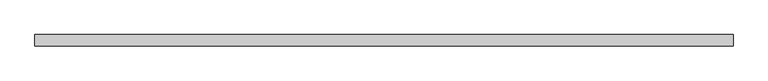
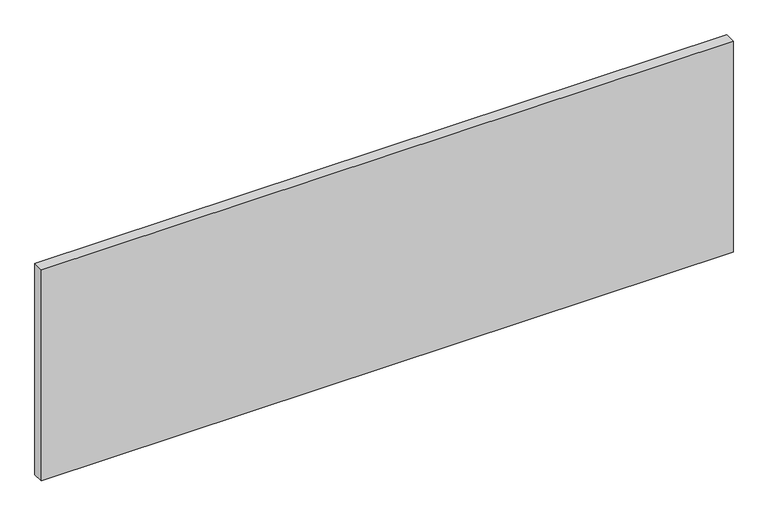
"""IFC4 building model written with IfcOpenShell, lengths in millimetres: proxy geometry, FOUNDATION^WORKSURFACES_FIXED TOP-93x30."""

from ifc_helpers import new_model, si_unit, frame, origin, place, context, project, spatial, polyline, outline, extrude, source, transform, mapped, element, save


def generic_models_fbad1f5f(model_context):
    return source(origin(), model_context, "Body", "SweptSolid", [
        extrude(outline(polyline([(2362.2, 0.0), (0.0, 0.0), (0.0, 38.1), (2362.2, 38.1), (2362.2, 0.0)])), frame((0.0, 0.0, -762.0), z_axis=(0.0, 0.0, 1.0), x_axis=(1.0, 0.0, 0.0)), (0.0, 0.0, 1.0), 762.0),
    ])


if __name__ == "__main__":
    model = new_model("IFC4")
    model_context = context("Model", 3, world=origin())
    ifc_project = project(units=[si_unit("LENGTHUNIT", "METRE", prefix="MILLI")], contexts=[model_context])
    site = spatial("IfcSite", under=ifc_project)
    building = spatial("IfcBuilding", under=site)
    placement = place(None, origin())
    generic_models_shape = generic_models_fbad1f5f(model_context)
    element("IfcBuildingElementProxy", 1, Name="FOUNDATION^WORKSURFACES_FIXED TOP-93x30", ObjectType="FOUNDATION^WORKSURFACES_FIXED TOP-93x30", at=placement, inside=building, context=model_context, shape_type="MappedRepresentation", body=[
        mapped(generic_models_shape, transform((0.0, 0.0, 0.0), x_axis=(1.0, 0.0, 0.0), y_axis=(0.0, 1.0, 0.0), z_axis=(0.0, 0.0, 1.0))),
    ])
    save(model, "model.ifc")
